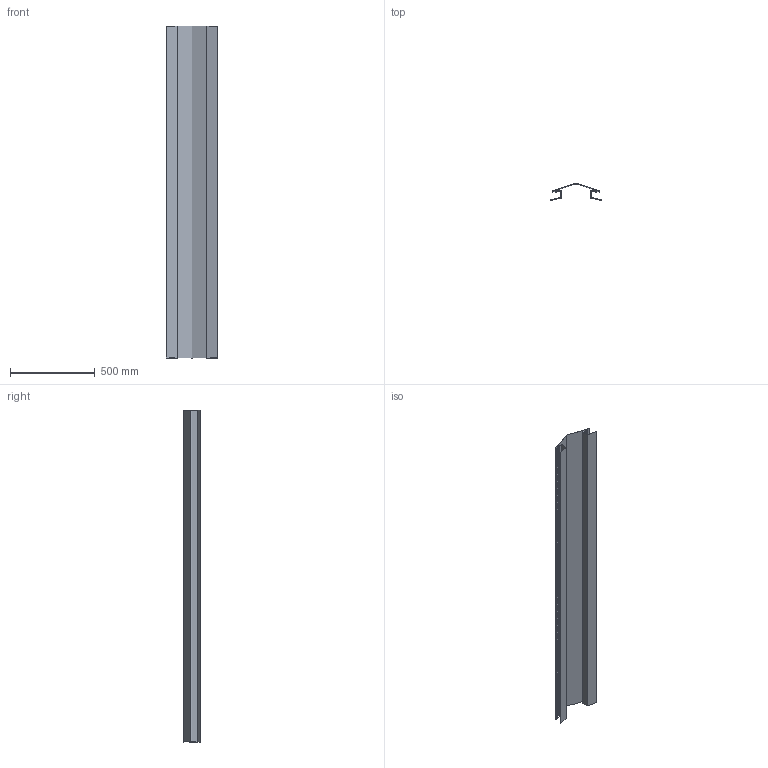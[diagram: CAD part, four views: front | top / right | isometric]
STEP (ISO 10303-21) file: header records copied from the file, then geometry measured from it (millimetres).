
FILE_DESCRIPTION (( 'STEP AP203' ), '1' );
FILE_NAME ('M30B.STEP', '2018-06-18T13:41:38', ( 'Michael Moliner' ), ( '' ), 'SwSTEP 2.0', 'SolidWorks 2018', '' );
FILE_SCHEMA (( 'CONFIG_CONTROL_DESIGN' ));
Products named in the file (2): M30B
Bounding box: 302.37 x 98.67 x 1959.65 mm (x, y, z)
Volume: 614426.8 mm3; surface area: 2428851.9 mm2
Topology: 2 solids, 2 shells, 4708 faces, 14412 edges, 9092 vertices
Faces by surface type: plane 4694, cylinder 14
Entity records: 158767 total; most frequent: ORIENTED_EDGE 28824, CARTESIAN_POINT 28214, DIRECTION 23860, EDGE_CURVE 14412, VECTOR 14384, LINE 14384, VERTEX_POINT 9092, EDGE_LOOP 5628
